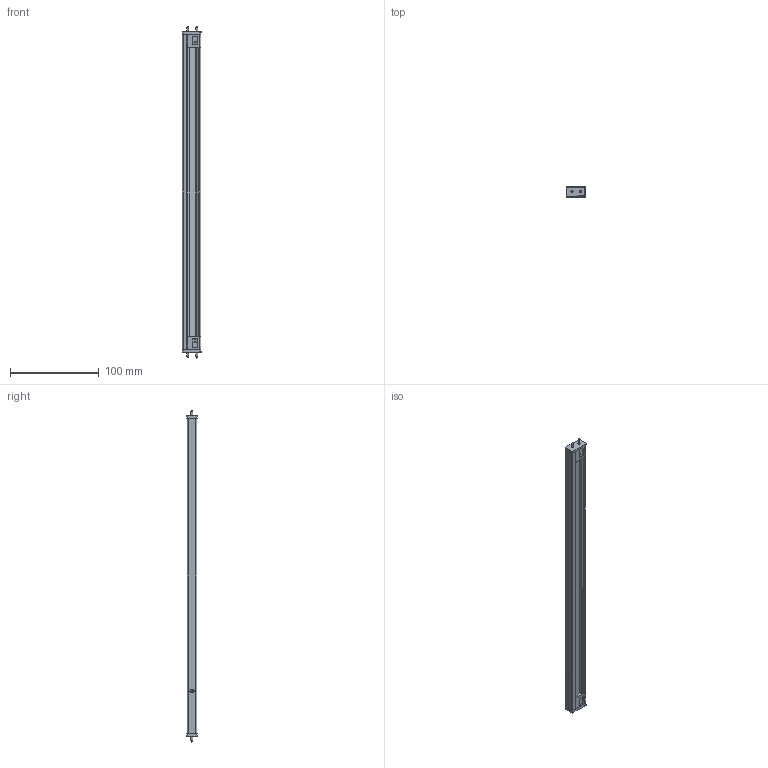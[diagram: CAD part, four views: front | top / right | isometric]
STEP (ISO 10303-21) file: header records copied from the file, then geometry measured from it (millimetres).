
FILE_DESCRIPTION (( 'STEP AP214' ), '1' );
FILE_NAME ('2000490 Kiton EDC 361 mm.STEP', '2022-11-09T06:55:33', ( '' ), ( '' ), 'SwSTEP 2.0', 'SolidWorks 2021', '' );
FILE_SCHEMA (( 'AUTOMOTIVE_DESIGN' ));
Length unit declared in the file: millimetre
Products named in the file (11): sheet metal screws_din_Tapping screw DIN 7049-ST2.2x9.5-C-H-C; SENSORE PROG. PROXIMITY; STRIP REEL 180 LED METRO 5.25mm; 2000490 Kiton EDC 361 mm; TESTATA_TESTATA DX; SUPPORTO TESTATA_SUPPORTO TESTATA SX; 6201093 Konsole rechts_361 mm; 6201094 PROFILO LAMPADA_361 mm; TESTATA_TESTATA SX; SUPPORTO TESTATA_SUPPORTO TESTATA DX; VITE TS TORX 2x6
Assembly tree (20 placements, depth 2):
  2000490 Kiton EDC 361 mm
    6201094 PROFILO LAMPADA_361 mm
    6201093 Konsole rechts_361 mm
    TESTATA_TESTATA DX
    TESTATA_TESTATA SX
    SUPPORTO TESTATA_SUPPORTO TESTATA DX
    SUPPORTO TESTATA_SUPPORTO TESTATA SX
    SENSORE PROG. PROXIMITY  x2
    STRIP REEL 180 LED METRO 5.25mm  x7
    sheet metal screws_din_Tapping screw DIN 7049-ST2.2x9.5-C-H-C  x4
    VITE TS TORX 2x6
Bounding box: 22.2 x 11.46 x 374.26 mm (x, y, z)
Volume: 41732.9 mm3; surface area: 61292.9 mm2
Topology: 20 solids, 20 shells, 1637 faces, 4482 edges, 2975 vertices
Faces by surface type: plane 1206, cylinder 317, bspline 83, cone 15, sphere 12, torus 4
Entity records: 40450 total; most frequent: CARTESIAN_POINT 13968, ORIENTED_EDGE 5342, DIRECTION 4299, EDGE_CURVE 2671, LINE 2003, VECTOR 2003, VERTEX_POINT 1774, AXIS2_PLACEMENT_3D 1148
